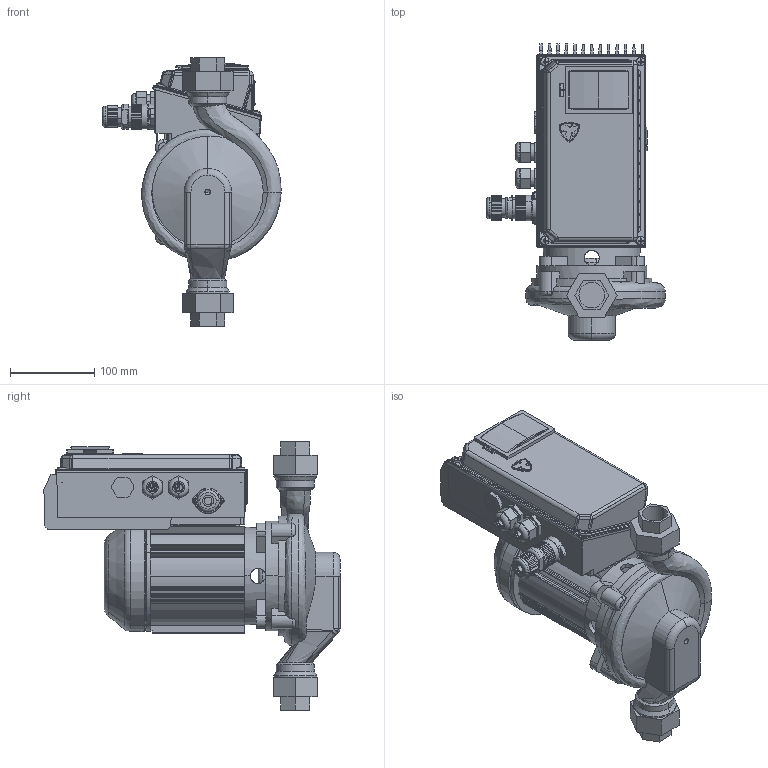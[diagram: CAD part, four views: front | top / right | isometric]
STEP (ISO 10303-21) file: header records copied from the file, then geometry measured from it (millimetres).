
FILE_DESCRIPTION(('STEP AP214'),'1');
FILE_NAME('export.stp','2018-05-31T10:55:15',(' '),(' '),'Spatial InterOp 3D',' ',' ');
FILE_SCHEMA(('AUTOMOTIVE_DESIGN { 1 0 10303 214 1 1 1 1 }'));
Length unit declared in the file: millimetre
Products named in the file (32): V_MOP752753762_SC; RU_OP_752_753_762; TSUOJA_OP_7; W_AE264200_SC; V_EKN12OP7; V_TLAEAP202526; V_PPAE26; P100471; P100466; P100453; P100467; DIN_7985-M5x12; P100515; P100512; P100513; P100514; P100509; ontto_sylinteri; DIN_7985-M3x12; P100606; P100607; P100565; P100567; P100566; P100569; P100581; P101504; P101332; PART3; PART4
Assembly tree (36 placements, depth 4):
  W_AE264200_SC
    V_MOP752753762_SC
      RU_OP_752_753_762
      TSUOJA_OP_7
    V_EKN12OP7
    V_TLAEAP202526
    V_PPAE26
    P100471
      P100466
      P100453
      P100467
      DIN_7985-M5x12  x4
      P100515
        P100512
        P100513
        P100514
        P100509
        ontto_sylinteri
      DIN_7985-M3x12  x2
      P100606
        P100607
        P100565
        ontto_sylinteri
      P100567
        P100566
        P100565
        ontto_sylinteri
      P100569
      P100581
      P101504
      P101332
        PART3
        PART4
Bounding box: 211.34 x 350.83 x 318 mm (x, y, z)
Volume: 2530908.4 mm3; surface area: 675886.5 mm2
Topology: 30 solids, 30 shells, 2395 faces, 6319 edges, 4033 vertices
Faces by surface type: plane 1115, cylinder 883, torus 140, cone 104, sphere 95, bspline 58
Entity records: 104024 total; most frequent: CARTESIAN_POINT 19875, DIRECTION 12756, ORIENTED_EDGE 11982, EDGE_CURVE 5991, AXIS2_PLACEMENT_3D 4759, VERTEX_POINT 3859, STYLED_ITEM 3699, PRESENTATION_STYLE_ASSIGNMENT 3699
